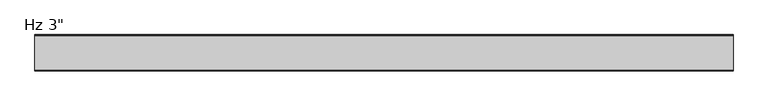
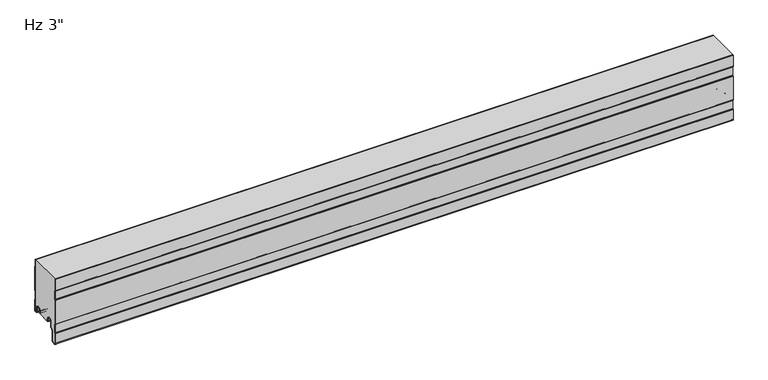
"""IFC4 building model written with IfcOpenShell, lengths in millimetres: plate geometry."""

from ifc_helpers import new_model, si_unit, point, frame, frame_2d, origin, place, context, project, spatial, polyline, circle_curve, trimmed, segment, composite_curve, outline, extrude, source, transform, mapped, element, save
from ifc_brep_helpers import plane_surface, cylinder_surface, revolved_surface, advanced_brep


def plate_4017daaa(model_context):
    return source(origin(), model_context, "Body", "SolidModel", [
        advanced_brep(
        [(-730.0, -17.0015159, 2.0313088), (-730.0, -18.0015191, 1.0313116), (-730.0, -19.0015105, 2.0313088), (-730.0, -19.0015105, 6.0315125), (-730.0, -18.0015159, 6.0315125), (-730.0, -18.0015159, 8.7237223), (-730.0, -14.7015202, 12.023718), (-730.0, -10.301529, 12.023718), (-730.0, -7.0015335, 8.7237225), (-730.0, -7.0015335, -1.6962564), (-730.0, -5.2315393, -3.4662506), (-730.0, -0.9999916, -3.4662506), (-730.0, -0.9999916, 21.034026), (-730.0, -2.2002307, 22.4196686), (-730.0, -2.2002307, 41.7948349), (-730.0, -1.0, 43.1804679), (-730.0, -1.0, 97.2338833), (-730.0, -2.2002307, 98.6195162), (-730.0, -2.2002307, 114.0), (-730.0, -1.2002307, 114.0), (-730.0, -1.2002307, 98.9923967), (-730.0, -0.3417885, 98.001349), (-730.0, 0.0, 97.0847321), (-730.0, 0.0, 43.329619), (-730.0, -0.3417885, 42.4130021), (-730.0, -1.2002307, 41.4219545), (-730.0, -1.2002307, 22.7925491), (-730.0, -0.3417885, 21.8015014), (-730.0, 0.0, 20.8847931), (-730.0, 8.4e-06, -3.0662545), (-730.0, -1.3999878, -4.4662506), (-730.0, -5.2315393, -4.4662506), (-730.0, -8.0015335, -1.6962564), (-730.0, -8.0015335, 8.7237225), (-730.0, -10.301529, 11.023718), (-730.0, -14.7015202, 11.023718), (-730.0, -17.0015159, 8.7237223), (730.0, -17.0015159, 2.0313088), (730.0, -17.0015159, 8.7237223), (730.0, -14.7015202, 11.023718), (730.0, -10.301529, 11.023718), (730.0, -8.0015335, 8.7237225), (730.0, -8.0015335, -1.6962564), (730.0, -5.2315393, -4.4662506), (730.0, -1.3999878, -4.4662506), (730.0, 8.4e-06, -3.0662545), (730.0, 8.4e-06, 20.8848845), (730.0, -0.3417885, 21.8015014), (730.0, -1.2002307, 22.7925491), (730.0, -1.2002307, 41.4219545), (730.0, -0.3417885, 42.4130021), (730.0, 0.0, 43.329619), (730.0, 0.0, 97.0847321), (730.0, -0.3417885, 98.001349), (730.0, -1.2002307, 98.9923967), (730.0, -1.2002307, 114.0), (730.0, -2.2002307, 114.0), (730.0, -2.2002307, 98.6195162), (730.0, -1.0, 97.2338833), (730.0, -1.0, 43.1804679), (730.0, -2.2002307, 41.7948349), (730.0, -2.2002307, 22.4196686), (730.0, -0.9999916, 21.034026), (730.0, -0.9999916, -3.4662506), (730.0, -5.2315393, -3.4662506), (730.0, -7.0015335, -1.6962564), (730.0, -7.0015335, 8.7237225), (730.0, -10.301529, 12.023718), (730.0, -14.7015202, 12.023718), (730.0, -18.0015159, 8.7237223), (730.0, -18.0015159, 6.0315125), (730.0, -19.0015105, 6.0315125), (730.0, -19.0015105, 2.0313088), (730.0, -18.0015192, 1.0313116)],
        [
            (0, 1, circle_curve(frame((-730.0, -18.0015132, 2.0313088), z_axis=(-1.0, 0.0, 0.0), x_axis=(0.0, 0.0, 1.0)), 0.9999973)),
            (1, 2, circle_curve(frame((-730.0, -18.0015133, 2.0313088), z_axis=(-1.0, 0.0, 0.0), x_axis=(0.0, 0.0, 1.0)), 0.9999972)),
            (2, 3),
            (3, 4),
            (4, 5),
            (5, 6, circle_curve(frame((-730.0, -14.7015202, 8.7237223), z_axis=(-1.0, 0.0, 0.0), x_axis=(0.0, 0.0, 1.0)), 3.2999957)),
            (6, 7),
            (7, 8, circle_curve(frame((-730.0, -10.301529, 8.7237225), z_axis=(-1.0, 0.0, 0.0), x_axis=(0.0, 0.0, 1.0)), 3.2999955)),
            (8, 9),
            (9, 10, circle_curve(frame((-730.0, -5.2315393, -1.6962564), z_axis=(1.0, 0.0, 0.0), x_axis=(0.0, 0.0, 1.0)), 1.7699942)),
            (10, 11),
            (11, 12),
            (12, 13),
            (13, 14),
            (14, 15),
            (15, 16),
            (16, 17),
            (17, 18),
            (18, 19),
            (19, 20),
            (20, 21),
            (21, 22, circle_curve(frame((-730.0, -1.3999972, 97.0847321), z_axis=(-1.0, 0.0, 0.0), x_axis=(0.0, 0.0, 1.0)), 1.3999972)),
            (22, 23),
            (23, 24, circle_curve(frame((-730.0, -1.3999972, 43.329619), z_axis=(-1.0, 0.0, 0.0), x_axis=(0.0, 0.0, 1.0)), 1.3999972)),
            (24, 25),
            (25, 26),
            (26, 27),
            (27, 28, circle_curve(frame((-730.0, -1.3999972, 20.8848845), z_axis=(-1.0, 0.0, 0.0), x_axis=(0.0, 0.0, 1.0)), 1.3999972)),
            (28, 29),
            (29, 30, circle_curve(frame((-730.0, -1.3999878, -3.0662545), z_axis=(-1.0, 0.0, 0.0), x_axis=(0.0, 0.0, 1.0)), 1.3999962)),
            (30, 31),
            (31, 32, circle_curve(frame((-730.0, -5.2315393, -1.6962564), z_axis=(-1.0, 0.0, 0.0), x_axis=(0.0, 0.0, 1.0)), 2.7699942)),
            (32, 33),
            (33, 34, circle_curve(frame((-730.0, -10.301529, 8.7237225), z_axis=(1.0, 0.0, 0.0), x_axis=(0.0, 0.0, 1.0)), 2.2999955)),
            (34, 35),
            (35, 36, circle_curve(frame((-730.0, -14.7015202, 8.7237223), z_axis=(1.0, 0.0, 0.0), x_axis=(0.0, 0.0, 1.0)), 2.2999957)),
            (36, 0),
            (37, 38),
            (38, 39, circle_curve(frame((730.0, -14.7015202, 8.7237223), z_axis=(-1.0, 0.0, 0.0), x_axis=(0.0, 0.0, 1.0)), 2.2999957)),
            (39, 40),
            (40, 41, circle_curve(frame((730.0, -10.301529, 8.7237225), z_axis=(-1.0, 0.0, 0.0), x_axis=(0.0, 0.0, 1.0)), 2.2999955)),
            (41, 42),
            (42, 43, circle_curve(frame((730.0, -5.2315393, -1.6962564), z_axis=(1.0, 0.0, 0.0), x_axis=(0.0, 0.0, 1.0)), 2.7699942)),
            (43, 44),
            (44, 45, circle_curve(frame((730.0, -1.3999878, -3.0662545), z_axis=(1.0, 0.0, 0.0), x_axis=(0.0, 0.0, 1.0)), 1.3999962)),
            (45, 46),
            (46, 47, circle_curve(frame((730.0, -1.3999972, 20.8848845), z_axis=(1.0, 0.0, 0.0), x_axis=(0.0, 0.0, 1.0)), 1.3999972)),
            (47, 48),
            (48, 49),
            (49, 50),
            (50, 51, circle_curve(frame((730.0, -1.3999972, 43.329619), z_axis=(1.0, 0.0, 0.0), x_axis=(0.0, 0.0, 1.0)), 1.3999972)),
            (51, 52),
            (52, 53, circle_curve(frame((730.0, -1.3999972, 97.0847321), z_axis=(1.0, 0.0, 0.0), x_axis=(0.0, 0.0, 1.0)), 1.3999972)),
            (53, 54),
            (54, 55),
            (55, 56),
            (56, 57),
            (57, 58),
            (58, 59),
            (59, 60),
            (60, 61),
            (61, 62),
            (62, 63),
            (63, 64),
            (64, 65, circle_curve(frame((730.0, -5.2315393, -1.6962564), z_axis=(-1.0, 0.0, 0.0), x_axis=(0.0, 0.0, 1.0)), 1.7699942)),
            (65, 66),
            (66, 67, circle_curve(frame((730.0, -10.301529, 8.7237225), z_axis=(1.0, 0.0, 0.0), x_axis=(0.0, 0.0, 1.0)), 3.2999955)),
            (67, 68),
            (68, 69, circle_curve(frame((730.0, -14.7015202, 8.7237223), z_axis=(1.0, 0.0, 0.0), x_axis=(0.0, 0.0, 1.0)), 3.2999957)),
            (69, 70),
            (70, 71),
            (71, 72),
            (72, 73, circle_curve(frame((730.0, -18.0015133, 2.0313088), z_axis=(1.0, 0.0, 0.0), x_axis=(0.0, 0.0, 1.0)), 0.9999972)),
            (73, 37, circle_curve(frame((730.0, -18.0015132, 2.0313088), z_axis=(1.0, 0.0, 0.0), x_axis=(0.0, 0.0, 1.0)), 0.9999973)),
            (18, 56),
            (55, 19),
            (36, 38),
            (37, 0),
            (35, 39),
            (34, 40),
            (33, 41),
            (32, 42),
            (31, 43),
            (30, 44),
            (29, 45),
            (28, 46),
            (27, 47),
            (26, 48),
            (25, 49),
            (24, 50),
            (23, 51),
            (22, 52),
            (21, 53),
            (20, 54),
            (17, 57),
            (16, 58),
            (15, 59),
            (14, 60),
            (13, 61),
            (12, 62),
            (11, 63),
            (10, 64),
            (9, 65),
            (8, 66),
            (7, 67),
            (6, 68),
            (5, 69),
            (4, 70),
            (3, 71),
            (2, 72),
            (1, 73),
        ],
        [
            plane_surface(frame((-730.0, 0.0, 381.0), z_axis=(-1.0, 0.0, 0.0), x_axis=(0.0, 1.0, 0.0))),
            plane_surface(frame((730.0, 0.0, 381.0), z_axis=(1.0, 0.0, 0.0), x_axis=(0.0, 1.0, 0.0))),
            plane_surface(frame((730.0, 10.0, 114.0), z_axis=(0.0, 0.0, 1.0), x_axis=(-1.0, 0.0, 0.0))),
            plane_surface(frame((-730.0, -17.0015159, 2.0313088), z_axis=(0.0, 1.0, 0.0), x_axis=(1.0, 0.0, 0.0))),
            revolved_surface(polyline([(730.0, -14.7015202, 11.023718), (-730.0, -14.7015202, 11.023718)]), (-730.0, -14.7015202, 8.7237223), (1.0, 0.0, 0.0)),
            plane_surface(frame((-730.0, -14.7015202, 11.023718), z_axis=(0.0, 0.0, -1.0), x_axis=(1.0, 0.0, 0.0))),
            revolved_surface(polyline([(730.0, -10.301529, 11.023717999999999), (-730.0, -10.301529, 11.023717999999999)]), (-730.0, -10.301529, 8.7237225), (1.0, 0.0, 0.0)),
            plane_surface(frame((-730.0, -8.0015335, 8.7237225), z_axis=(0.0, -1.0, 0.0), x_axis=(1.0, 0.0, 0.0))),
            cylinder_surface(frame((-730.0, -5.2315393, -1.6962564), z_axis=(-1.0, 0.0, 0.0), x_axis=(0.0, 0.0, 1.0)), 2.7699942),
            plane_surface(frame((-730.0, -5.2315393, -4.4662506), z_axis=(0.0, 0.0, -1.0), x_axis=(1.0, 0.0, 0.0))),
            cylinder_surface(frame((-730.0, -1.3999878, -3.0662545), z_axis=(-1.0, 0.0, 0.0), x_axis=(0.0, 0.0, 1.0)), 1.3999962),
            plane_surface(frame((-730.0, 8.4e-06, -3.0662545), z_axis=(0.0, 1.0, 0.0), x_axis=(1.0, 0.0, 0.0))),
            cylinder_surface(frame((-730.0, -1.3999972, 20.8848845), z_axis=(-1.0, 0.0, 0.0), x_axis=(0.0, 0.0, 1.0)), 1.3999972),
            plane_surface(frame((-730.0, -0.3417885, 21.8015014), z_axis=(0.0, 0.755864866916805, 0.6547276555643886), x_axis=(1.0, 0.0, 0.0))),
            plane_surface(frame((-730.0, -1.2002307, 32.1072518), z_axis=(0.0, 1.0, 0.0), x_axis=(1.0, 0.0, 0.0))),
            plane_surface(frame((-730.0, -1.2002307, 41.4219545), z_axis=(0.0, 0.755864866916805, -0.6547276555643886), x_axis=(1.0, 0.0, 0.0))),
            cylinder_surface(frame((-730.0, -1.3999972, 43.329619), z_axis=(-1.0, 0.0, 0.0), x_axis=(0.0, 0.0, 1.0)), 1.3999972),
            plane_surface(frame((-730.0, 0.0, 43.329619), z_axis=(0.0, 1.0, 0.0), x_axis=(1.0, 0.0, 0.0))),
            cylinder_surface(frame((-730.0, -1.3999972, 97.0847321), z_axis=(-1.0, 0.0, 0.0), x_axis=(0.0, 0.0, 1.0)), 1.3999972),
            plane_surface(frame((-730.0, -0.3417885, 98.001349), z_axis=(0.0, 0.755864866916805, 0.6547276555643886), x_axis=(1.0, 0.0, 0.0))),
            plane_surface(frame((-730.0, -1.2002307, 108.3070994), z_axis=(0.0, 1.0, 0.0), x_axis=(1.0, 0.0, 0.0))),
            plane_surface(frame((-730.0, -2.2002307, 117.9946825), z_axis=(0.0, -1.0, 0.0), x_axis=(1.0, 0.0, 0.0))),
            plane_surface(frame((-730.0, -2.2002307, 98.6195162), z_axis=(0.0, -0.755864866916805, -0.6547276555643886), x_axis=(1.0, 0.0, 0.0))),
            plane_surface(frame((-730.0, -1.0, 97.2338833), z_axis=(0.0, -1.0, 0.0), x_axis=(1.0, 0.0, 0.0))),
            plane_surface(frame((-730.0, -1.0, 43.1804679), z_axis=(0.0, -0.755864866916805, 0.6547276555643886), x_axis=(1.0, 0.0, 0.0))),
            plane_surface(frame((-730.0, -2.2002307, 41.7948349), z_axis=(0.0, -1.0, 0.0), x_axis=(1.0, 0.0, 0.0))),
            plane_surface(frame((-730.0, -2.2002307, 22.4196686), z_axis=(0.0, -0.755864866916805, -0.6547276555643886), x_axis=(1.0, 0.0, 0.0))),
            plane_surface(frame((-730.0, -0.9999916, 21.034026), z_axis=(0.0, -1.0, 0.0), x_axis=(1.0, 0.0, 0.0))),
            plane_surface(frame((-730.0, -0.9999916, -3.4662506), z_axis=(0.0, 0.0, 1.0), x_axis=(1.0, 0.0, 0.0))),
            revolved_surface(polyline([(730.0, -5.2315393, 0.07373779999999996), (-730.0, -5.2315393, 0.07373779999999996)]), (-730.0, -5.2315393, -1.6962564), (1.0, 0.0, 0.0)),
            plane_surface(frame((-730.0, -7.0015335, -1.6962564), z_axis=(0.0, 1.0, 0.0), x_axis=(1.0, 0.0, 0.0))),
            cylinder_surface(frame((-730.0, -10.301529, 8.7237225), z_axis=(-1.0, 0.0, 0.0), x_axis=(0.0, 0.0, 1.0)), 3.2999955),
            plane_surface(frame((-730.0, -10.301529, 12.023718), z_axis=(0.0, 0.0, 1.0), x_axis=(1.0, 0.0, 0.0))),
            cylinder_surface(frame((-730.0, -14.7015202, 8.7237223), z_axis=(-1.0, 0.0, 0.0), x_axis=(0.0, 0.0, 1.0)), 3.2999957),
            plane_surface(frame((-730.0, -18.0015159, 8.7237223), z_axis=(0.0, -1.0, 0.0), x_axis=(1.0, 0.0, 0.0))),
            plane_surface(frame((-730.0, -18.0015159, 6.0315125), z_axis=(0.0, 0.0, 1.0), x_axis=(1.0, 0.0, 0.0))),
            plane_surface(frame((-730.0, -19.0015105, 6.0315125), z_axis=(0.0, -1.0, 0.0), x_axis=(1.0, 0.0, 0.0))),
            cylinder_surface(frame((-730.0, -18.0015133, 2.0313088), z_axis=(-1.0, 0.0, 0.0), x_axis=(0.0, 0.0, 1.0)), 0.9999972),
            cylinder_surface(frame((-730.0, -18.0015132, 2.0313088), z_axis=(-1.0, 0.0, 0.0), x_axis=(0.0, 0.0, 1.0)), 0.9999973),
        ],
        [
            (0, [[1, 2, 3, 4, 5, 6, 7, 8, 9, 10, 11, 12, 13, 14, 15, 16, 17, 18, 19, 20, 21, 22, 23, 24, 25, 26, 27, 28, 29, 30, 31, 32, 33, 34, 35, 36, 37]]),
            (1, [[38, 39, 40, 41, 42, 43, 44, 45, 46, 47, 48, 49, 50, 51, 52, 53, 54, 55, 56, 57, 58, 59, 60, 61, 62, 63, 64, 65, 66, 67, 68, 69, 70, 71, 72, 73, 74]]),
            (2, [[75, -56, 76, -19]]),
            (3, [[77, -38, 78, -37]]),
            (4, [[79, -39, -77, -36]]),
            (5, [[80, -40, -79, -35]]),
            (6, [[81, -41, -80, -34]]),
            (7, [[82, -42, -81, -33]]),
            (8, [[83, -43, -82, -32]]),
            (9, [[84, -44, -83, -31]]),
            (10, [[85, -45, -84, -30]]),
            (11, [[86, -46, -85, -29]]),
            (12, [[87, -47, -86, -28]]),
            (13, [[88, -48, -87, -27]]),
            (14, [[89, -49, -88, -26]]),
            (15, [[90, -50, -89, -25]]),
            (16, [[91, -51, -90, -24]]),
            (17, [[92, -52, -91, -23]]),
            (18, [[93, -53, -92, -22]]),
            (19, [[94, -54, -93, -21]]),
            (20, [[-20, -76, -55, -94]]),
            (21, [[-57, -75, -18, 95]]),
            (22, [[96, -58, -95, -17]]),
            (23, [[97, -59, -96, -16]]),
            (24, [[98, -60, -97, -15]]),
            (25, [[99, -61, -98, -14]]),
            (26, [[100, -62, -99, -13]]),
            (27, [[101, -63, -100, -12]]),
            (28, [[102, -64, -101, -11]]),
            (29, [[103, -65, -102, -10]]),
            (30, [[104, -66, -103, -9]]),
            (31, [[105, -67, -104, -8]]),
            (32, [[106, -68, -105, -7]]),
            (33, [[107, -69, -106, -6]]),
            (34, [[108, -70, -107, -5]]),
            (35, [[109, -71, -108, -4]]),
            (36, [[110, -72, -109, -3]]),
            (37, [[111, -73, -110, -2]]),
            (38, [[-78, -74, -111, -1]]),
        ],
    ),
        extrude(outline(composite_curve([segment(trimmed(circle_curve(frame_2d((-74.7998717, -10.6415934)), 1.3998661), [point((-76.1997378, -10.6415934))], [point((-75.7324955, -9.5976403))], False, "CARTESIAN"), True, "CONTINUOUS"), segment(polyline([(-75.7324955, -9.5976403), (-74.9997693, -8.8649141), (-74.9997693, 10.0260713), (-75.7327349, 10.7590369)]), True, "CONTINUOUS"), segment(trimmed(circle_curve(frame_2d((-74.8000237, 11.8030877)), 1.3999972), [point((-75.7327349, 10.7590369))], [point((-76.2, 11.810741))], False, "CARTESIAN"), True, "CONTINUOUS"), segment(polyline([(-76.2, 11.810741), (-76.2, 65.5582542)]), True, "CONTINUOUS"), segment(trimmed(circle_curve(frame_2d((-74.8000028, 65.5582542)), 1.3999972), [point((-76.2, 65.5582542))], [point((-75.732714, 66.602305))], False, "CARTESIAN"), True, "CONTINUOUS"), segment(polyline([(-75.732714, 66.602305), (-74.9997693, 67.3352497), (-74.9997693, 86.2259189), (-75.7327349, 86.9588845)]), True, "CONTINUOUS"), segment(trimmed(circle_curve(frame_2d((-74.8000237, 88.0029353)), 1.3999972), [point((-75.7327349, 86.9588845))], [point((-76.2, 88.0105886))], False, "CARTESIAN"), True, "CONTINUOUS"), segment(polyline([(-76.2, 88.0105886), (-76.2, 114.0), (-75.2, 114.0), (-75.2, 87.8405213), (-73.9997693, 86.6402905), (-73.9997693, 66.920878), (-75.2, 65.7206473), (-75.2, 11.6405156), (-73.9997693, 10.4402849), (-73.9997693, -9.2791277), (-75.1997378, -10.4790962), (-75.1997378, -32.4521176)]), True, "CONTINUOUS"), segment(trimmed(circle_curve(frame_2d((-72.6294985, -32.4521176)), 2.5702393), [point((-75.1997378, -32.4521176))], [point((-72.4054129, -35.0125699))], True, "CARTESIAN"), True, "CONTINUOUS"), segment(polyline([(-72.4054129, -35.0125699), (-67.423592, -34.5765709)]), True, "CONTINUOUS"), segment(trimmed(circle_curve(frame_2d((-67.9049826, -31.9198392)), 2.6999926), [point((-67.423592, -34.5765709))], [point((-65.20499, -31.9198392))], True, "CARTESIAN"), True, "CONTINUOUS"), segment(polyline([(-65.20499, -31.9198392), (-65.20499, -9.8247096), (-59.7029189, -4.3226385)]), True, "CONTINUOUS"), segment(trimmed(circle_curve(frame_2d((-60.9049966, -3.1205608)), 1.6999946), [point((-59.7029189, -4.3226385))], [point((-59.205002, -3.1205608))], True, "CARTESIAN"), True, "CONTINUOUS"), segment(polyline([(-59.205002, -3.1205608), (-59.205002, 8.6903283)]), True, "CONTINUOUS"), segment(trimmed(circle_curve(frame_2d((-55.8550067, 8.6903283)), 3.3499953), [point((-59.205002, 8.6903283))], [point((-55.8550067, 12.0403236))], False, "CARTESIAN"), True, "CONTINUOUS"), segment(polyline([(-55.8550067, 12.0403236), (-51.4550155, 12.0403236)]), True, "CONTINUOUS"), segment(trimmed(circle_curve(frame_2d((-51.4550155, 8.6903283)), 3.3499953), [point((-51.4550155, 12.0403236))], [point((-48.1050202, 8.6903283))], False, "CARTESIAN"), True, "CONTINUOUS"), segment(polyline([(-48.1050202, 8.6903283), (-48.1050202, 5.9912173), (-46.7065413, 5.9912173), (-46.7065413, 2.2328239)]), True, "CONTINUOUS"), segment(trimmed(circle_curve(frame_2d((-47.906538, 2.2313092)), 1.1999976), [point((-46.7065413, 2.2328239))], [point((-47.8760161, 1.0316999))], False, "CARTESIAN"), True, "CONTINUOUS"), segment(trimmed(circle_curve(frame_2d((-47.906538, 2.2313092)), 1.1999976), [point((-47.8760161, 1.0316999))], [point((-49.1050202, 2.1710221))], False, "CARTESIAN"), True, "CONTINUOUS"), segment(polyline([(-49.1050202, 2.1710221), (-49.1050202, 8.6903283)]), True, "CONTINUOUS"), segment(trimmed(circle_curve(frame_2d((-51.4550155, 8.6903283)), 2.3499953), [point((-49.1050202, 8.6903283))], [point((-51.4550155, 11.0403236))], True, "CARTESIAN"), True, "CONTINUOUS"), segment(polyline([(-51.4550155, 11.0403236), (-55.8550067, 11.0403236)]), True, "CONTINUOUS"), segment(trimmed(circle_curve(frame_2d((-55.8550067, 8.6903283)), 2.3499953), [point((-55.8550067, 11.0403236))], [point((-58.205002, 8.6903283))], True, "CARTESIAN"), True, "CONTINUOUS"), segment(polyline([(-58.205002, 8.6903283), (-58.205002, -3.1205608)]), True, "CONTINUOUS"), segment(trimmed(circle_curve(frame_2d((-60.9049966, -3.1205608)), 2.6999946), [point((-58.205002, -3.1205608))], [point((-58.9958121, -5.0297453))], False, "CARTESIAN"), True, "CONTINUOUS"), segment(polyline([(-58.9958121, -5.0297453), (-63.8242296, -9.8581627)]), True, "CONTINUOUS"), segment(trimmed(circle_curve(frame_2d((-62.9049926, -10.7773997)), 1.2999974), [point((-63.8242296, -9.8581627))], [point((-64.20499, -10.7773997))], True, "CARTESIAN"), True, "CONTINUOUS"), segment(polyline([(-64.20499, -10.7773997), (-64.20499, -31.9198392)]), True, "CONTINUOUS"), segment(trimmed(circle_curve(frame_2d((-67.9049826, -31.9198392)), 3.6999926), [point((-64.20499, -31.9198392))], [point((-67.2941815, -35.5690675))], False, "CARTESIAN"), True, "CONTINUOUS"), segment(polyline([(-67.2941815, -35.5690675), (-72.3182281, -36.008762)]), True, "CONTINUOUS"), segment(trimmed(circle_curve(frame_2d((-72.6294985, -32.4521176)), 3.5702393), [point((-72.3182281, -36.008762))], [point((-76.1997378, -32.4521176))], False, "CARTESIAN"), True, "CONTINUOUS"), segment(polyline([(-76.1997378, -32.4521176), (-76.1997378, -10.6415934)]), True, "CONTINUOUS")], self_intersect=False)), frame((-730.0, 0.0, 0.0), z_axis=(1.0, 0.0, 0.0), x_axis=(0.0, 1.0, 0.0)), (0.0, 0.0, 1.0), 1460.0),
        extrude(outline(composite_curve([segment(trimmed(circle_curve(frame_2d((-47.906538, 2.2313092)), 1.1999976), [point((-47.8760161, 1.0316999))], [point((-46.7065413, 2.2328239))], True, "CARTESIAN"), True, "CONTINUOUS"), segment(polyline([(-46.7065413, 2.2328239), (-46.7065413, 5.9912173), (-48.1050202, 5.9912173), (-48.1050202, 8.6903283)]), True, "CONTINUOUS"), segment(trimmed(circle_curve(frame_2d((-51.4550155, 8.6903283)), 3.3499953), [point((-48.1050202, 8.6903283))], [point((-51.4550155, 12.0403236))], True, "CARTESIAN"), True, "CONTINUOUS"), segment(polyline([(-51.4550155, 12.0403236), (-55.8550067, 12.0403236)]), True, "CONTINUOUS"), segment(trimmed(circle_curve(frame_2d((-55.8550067, 8.6903283)), 3.3499953), [point((-55.8550067, 12.0403236))], [point((-59.205002, 8.6903283))], True, "CARTESIAN"), True, "CONTINUOUS"), segment(polyline([(-59.205002, 8.6903283), (-59.205002, -3.1205608)]), True, "CONTINUOUS"), segment(trimmed(circle_curve(frame_2d((-60.9049966, -3.1205608)), 1.6999946), [point((-59.205002, -3.1205608))], [point((-59.7029189, -4.3226385))], False, "CARTESIAN"), True, "CONTINUOUS"), segment(polyline([(-59.7029189, -4.3226385), (-65.20499, -9.8247096), (-65.20499, -31.9198392)]), True, "CONTINUOUS"), segment(trimmed(circle_curve(frame_2d((-67.9049826, -31.9198392)), 2.6999926), [point((-65.20499, -31.9198392))], [point((-67.423592, -34.5765709))], False, "CARTESIAN"), True, "CONTINUOUS"), segment(polyline([(-67.423592, -34.5765709), (-72.4054129, -35.0125699)]), True, "CONTINUOUS"), segment(trimmed(circle_curve(frame_2d((-72.6294985, -32.4521176)), 2.5702393), [point((-72.4054129, -35.0125699))], [point((-75.1997378, -32.4521176))], False, "CARTESIAN"), True, "CONTINUOUS"), segment(polyline([(-75.1997378, -32.4521176), (-75.1997378, -10.4790962), (-73.9997693, -9.2791277), (-73.9997693, 10.4402849), (-75.2, 11.6405156), (-75.2, 65.7206473), (-73.9997693, 66.920878), (-73.9997693, 86.6402905), (-75.2, 87.8405213), (-75.2, 114.0), (-2.2002307, 114.0), (-2.2002307, 98.6195163), (-1.0, 97.2338833), (-1.0, 43.1804679), (-2.2002307, 41.794835), (-2.2002307, 22.4196687), (-0.9999916, 21.034026), (-0.9999916, -3.4662506), (-5.2315389, -3.4662506)]), True, "CONTINUOUS"), segment(trimmed(circle_curve(frame_2d((-5.2315389, -1.6962564)), 1.7699942), [point((-5.2315389, -3.4662506))], [point((-7.0015331, -1.6962564))], False, "CARTESIAN"), True, "CONTINUOUS"), segment(polyline([(-7.0015331, -1.6962564), (-7.0015331, 8.7237222)]), True, "CONTINUOUS"), segment(trimmed(circle_curve(frame_2d((-10.301529, 8.7237222)), 3.2999959), [point((-7.0015331, 8.7237222))], [point((-10.301529, 12.023718))], True, "CARTESIAN"), True, "CONTINUOUS"), segment(polyline([(-10.301529, 12.023718), (-14.7015202, 12.023718)]), True, "CONTINUOUS"), segment(trimmed(circle_curve(frame_2d((-14.7015202, 8.7237223)), 3.2999957), [point((-14.7015202, 12.023718))], [point((-18.0015159, 8.7237223))], True, "CARTESIAN"), True, "CONTINUOUS"), segment(polyline([(-18.0015159, 8.7237223), (-18.0015159, 6.0315125), (-19.0015105, 6.0315125), (-19.0015105, 2.0313089)]), True, "CONTINUOUS"), segment(trimmed(circle_curve(frame_2d((-18.0015133, 2.0313089)), 0.9999972), [point((-19.0015105, 2.0313089))], [point((-18.0015192, 1.0313117))], True, "CARTESIAN"), True, "CONTINUOUS"), segment(polyline([(-18.0015192, 1.0313117), (-19.0328308, 0.0), (-46.8443162, 0.0), (-47.8760161, 1.0316999)]), True, "CONTINUOUS")], self_intersect=False)), frame((-730.0, 0.0, 0.0), z_axis=(1.0, 0.0, 0.0), x_axis=(0.0, 1.0, 0.0)), (0.0, 0.0, 1.0), 1460.0),
    ])


if __name__ == "__main__":
    model = new_model("IFC4")
    model_context = context("Model", 3, world=origin())
    ifc_project = project(units=[si_unit("LENGTHUNIT", "METRE", prefix="MILLI")], contexts=[model_context])
    site = spatial("IfcSite", under=ifc_project)
    building = spatial("IfcBuilding", under=site)
    placement = place(None, origin())
    plate_shape = plate_4017daaa(model_context)
    element("IfcPlate", 1, ObjectType="KIP-30-Karrier-KP-R19-CP-Hz-SL_SL : Hz 3\"", at=placement, inside=building, context=model_context, shape_type="MappedRepresentation", body=[
        mapped(plate_shape, transform((0.0, 0.0, 0.0), x_axis=(1.0, 0.0, 0.0), y_axis=(0.0, 1.0, 0.0), z_axis=(0.0, 0.0, 1.0))),
    ])
    save(model, "model.ifc")
